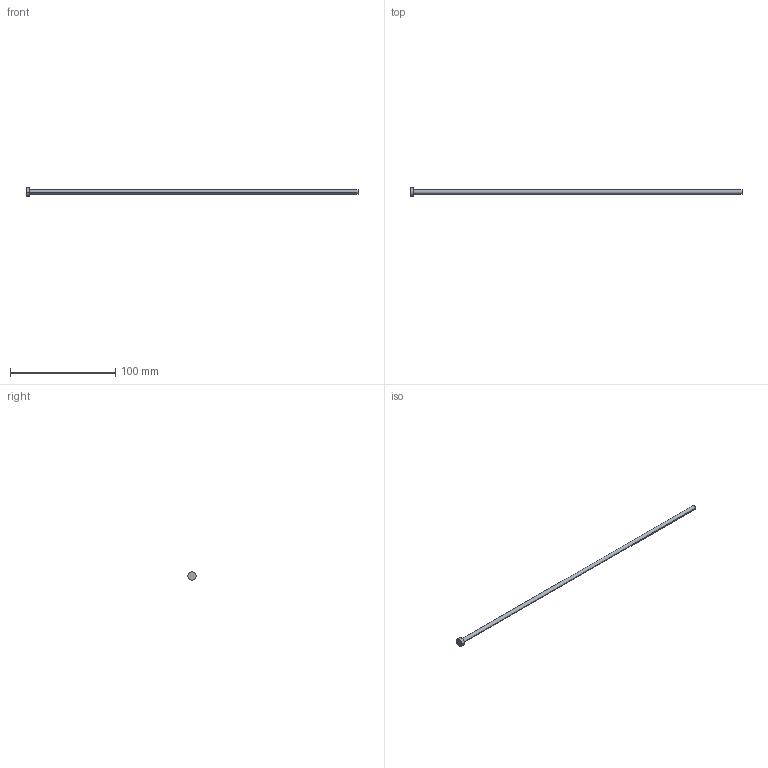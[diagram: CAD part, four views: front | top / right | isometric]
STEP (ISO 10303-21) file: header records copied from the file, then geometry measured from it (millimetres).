
FILE_DESCRIPTION (( 'STEP AP214' ), '1' );
FILE_NAME ('A-4x315.STEP', '2020-05-29T10:28:21', ( 'August' ), ( '' ), 'SwSTEP 2.0', 'SolidWorks 2018', '' );
FILE_SCHEMA (( 'AUTOMOTIVE_DESIGN' ));
Length unit declared in the file: millimetre
Products named in the file (1): A-4x315
Bounding box: 315 x 8 x 8 mm (x, y, z)
Volume: 4071.8 mm3; surface area: 4095.1 mm2
Topology: 1 solids, 1 shells, 9 faces, 16 edges, 10 vertices
Faces by surface type: cylinder 4, plane 3, torus 2
Entity records: 260 total; most frequent: DIRECTION 48, CARTESIAN_POINT 36, ORIENTED_EDGE 32, AXIS2_PLACEMENT_3D 22, EDGE_CURVE 16, CIRCLE 12, VERTEX_POINT 10, EDGE_LOOP 10
